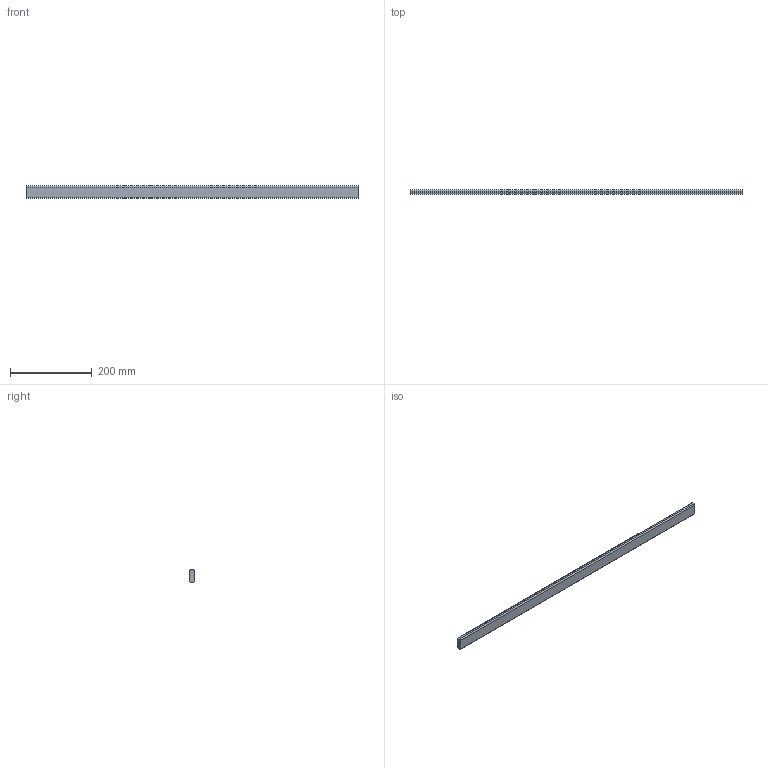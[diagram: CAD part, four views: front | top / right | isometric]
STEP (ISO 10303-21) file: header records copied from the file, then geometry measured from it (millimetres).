
FILE_DESCRIPTION (( 'STEP AP214' ), '1' );
FILE_NAME ('_Querreling_KAB-900_KS-16.step', '2010-08-26T14:59:04', ( 'grass' ), ( '' ), 'SwSTEP 2.0', 'SolidWorks 2009', '' );
FILE_SCHEMA (( 'AUTOMOTIVE_DESIGN' ));
Length unit declared in the file: millimetre
Products named in the file (1): _Querreling_KAB-900_KS-16
Bounding box: 812.5 x 10.5 x 30 mm (x, y, z)
Volume: 252450.2 mm3; surface area: 63644.1 mm2
Topology: 1 solids, 1 shells, 10 faces, 24 edges, 16 vertices
Faces by surface type: plane 6, cylinder 4
Entity records: 330 total; most frequent: DIRECTION 54, CARTESIAN_POINT 51, ORIENTED_EDGE 48, EDGE_CURVE 24, AXIS2_PLACEMENT_3D 19, VECTOR 16, LINE 16, VERTEX_POINT 16
